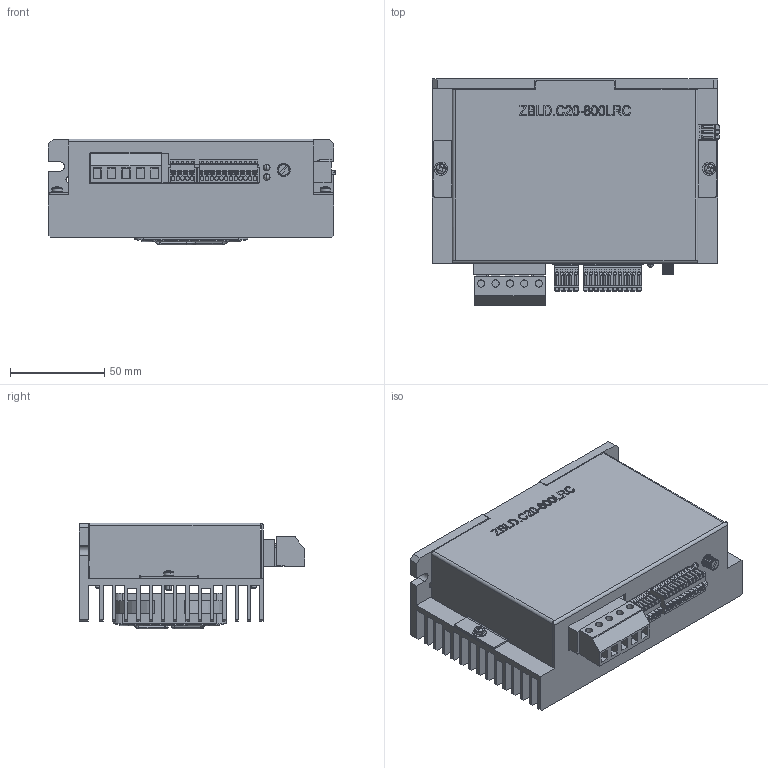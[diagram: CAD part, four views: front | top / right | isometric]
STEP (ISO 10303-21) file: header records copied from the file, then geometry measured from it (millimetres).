
FILE_DESCRIPTION (( 'STEP AP214' ), '1' );
FILE_NAME ('ZBLD.C20-800LRC.STEP', '2021-07-15T01:32:08', ( '' ), ( '' ), 'SwSTEP 2.0', 'SolidWorks 2019', '' );
FILE_SCHEMA (( 'AUTOMOTIVE_DESIGN' ));
Length unit declared in the file: millimetre
Products named in the file (1): ZBLD.C20-800LRC
Bounding box: 151.9 x 119.6 x 56 mm (x, y, z)
Volume: 244738 mm3; surface area: 201081.4 mm2
Topology: 4 solids, 11 shells, 2265 faces, 6185 edges, 4012 vertices
Faces by surface type: plane 1548, cylinder 452, bspline 141, cone 76, torus 44, sphere 4
Entity records: 78941 total; most frequent: CARTESIAN_POINT 21980, ORIENTED_EDGE 12338, DIRECTION 11001, EDGE_CURVE 6169, VECTOR 4481, LINE 4481, VERTEX_POINT 4008, AXIS2_PLACEMENT_3D 3260
